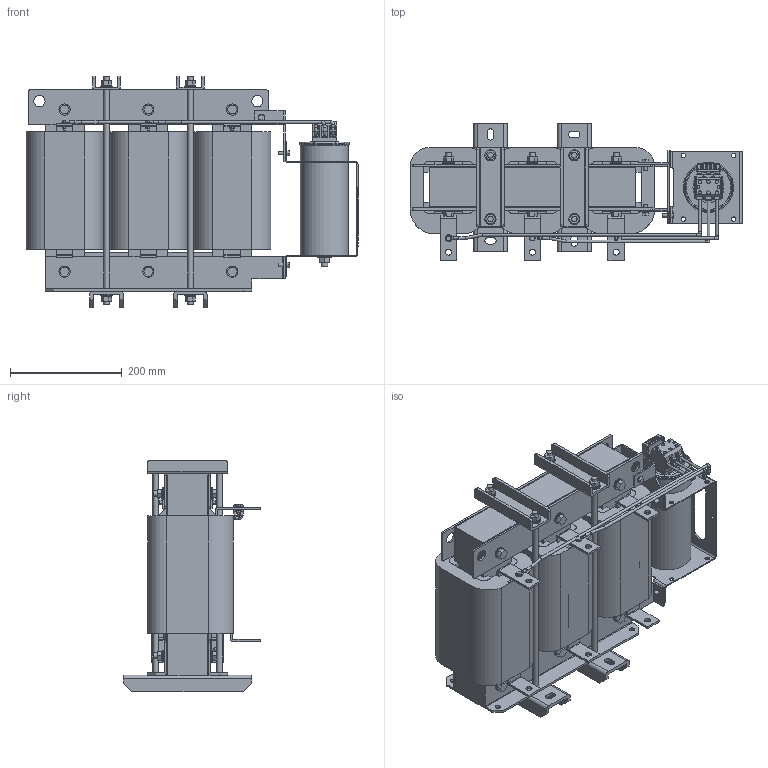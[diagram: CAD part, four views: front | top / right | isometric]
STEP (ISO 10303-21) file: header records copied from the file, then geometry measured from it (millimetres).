
FILE_DESCRIPTION (( 'STEP AP203' ), '1' );
FILE_NAME ('蔓躅漤铋 耔眢耥 翳朦蝠 _ ISINOF-55_116-4.STEP', '2026-07-20T08:38:17', ( '' ), ( '' ), 'SwSTEP 2.0', 'SolidWorks 2021', '' );
FILE_SCHEMA (( 'CONFIG_CONTROL_DESIGN' ));
Length unit declared in the file: millimetre
Products named in the file (1): 蔓躅漤铋 耔眢耥 翳朦蝠 _ ISINOF-55_116-4
Bounding box: 594 x 246 x 414.91 mm (x, y, z)
Surface area: 2413642 mm2 (no closed solid volume)
Topology: 0 solids, 158 shells, 1461 faces, 3415 edges, 2274 vertices
Faces by surface type: plane 1064, cylinder 363, bspline 27, torus 6, cone 1
Full cylindrical faces by diameter (mm): 4.8 x3, 5 x13, 6 x8, 6.3 x12, 6.4 x1, 7 x3, 7.482 x3, 8 x10, 9 x4, 9.6 x5, 10 x10, 11 x6, 12 x5, 13 x1, 15.588 x14, 20 x36, 24 x1, 80 x1, 86 x1, 89 x1, 90 x1
Entity records: 44245 total; most frequent: CARTESIAN_POINT 11400, ORIENTED_EDGE 6506, DIRECTION 6463, EDGE_CURVE 3255, VECTOR 2413, LINE 2413, VERTEX_POINT 2263, AXIS2_PLACEMENT_3D 2025
